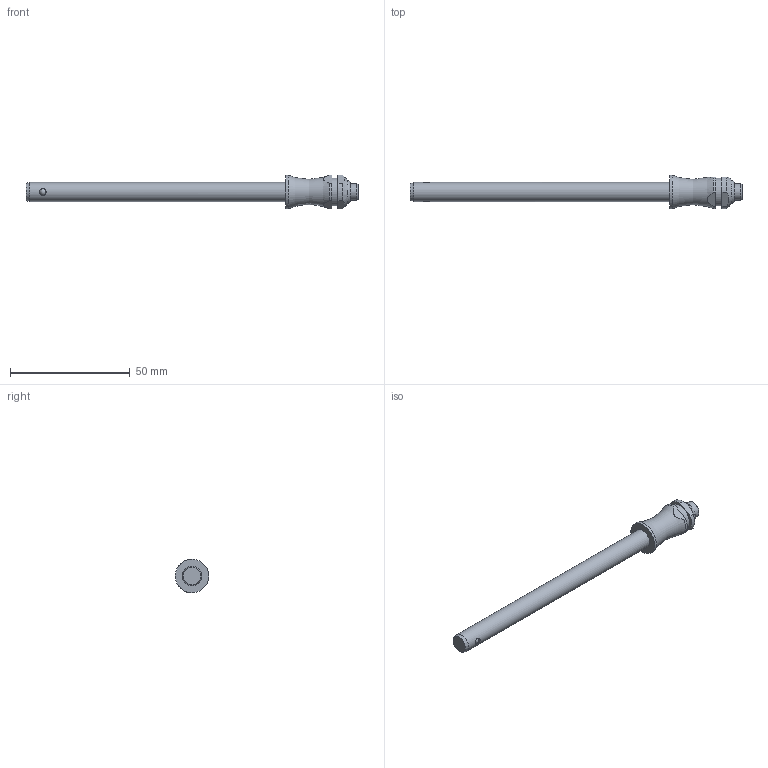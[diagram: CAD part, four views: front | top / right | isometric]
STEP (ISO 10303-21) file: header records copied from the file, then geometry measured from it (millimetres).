
FILE_DESCRIPTION( ( 'STEP AP203' ), '1' );
FILE_NAME( 'C:/Temp/Ganter_Step_05_03_2020/data/3_1/gn113_3/Stainless Steel-Ball lock pin GN 113.3-8-100 (activated).stp', '2020-03-12T08:18:29', ( 'License CC BY-ND 4.0' ), ( 'CADENAS' ), ' ', 'PARTsolutions', ' ' );
FILE_SCHEMA( ( 'CONFIG_CONTROL_DESIGN' ) );
Length unit declared in the file: millimetre
Products named in the file (1): _Stainless Steel-Ball lock pin GN 113.3-8-100 (activated)
Bounding box: 138.35 x 14 x 14 mm (x, y, z)
Volume: 8527.9 mm3; surface area: 4136.9 mm2
Topology: 1 solids, 1 shells, 30 faces, 72 edges, 45 vertices
Faces by surface type: cylinder 12, plane 11, cone 3, torus 2, sphere 2
Full cylindrical faces by diameter (mm): 2.78 x2, 7 x1, 8 x1, 11.6 x1, 14 x1
Entity records: 968 total; most frequent: CARTESIAN_POINT 321, DIRECTION 130, ORIENTED_EDGE 102, AXIS2_PLACEMENT_3D 56, EDGE_CURVE 51, EDGE_LOOP 46, VERTEX_POINT 39, FACE_OUTER_BOUND 38
